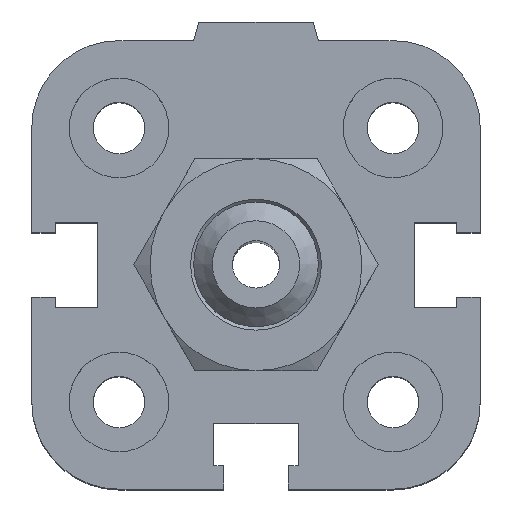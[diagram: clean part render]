
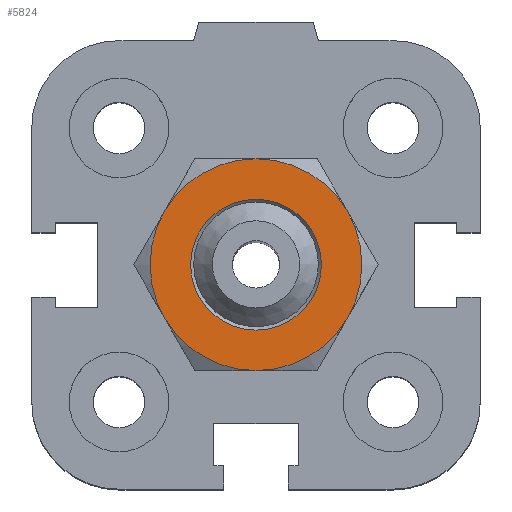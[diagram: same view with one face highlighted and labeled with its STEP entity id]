
A CAD part, top view. The second image highlights one B-rep face of the part: STEP entity #5824.
In plain terms, the highlighted planar face has unit normal (0, 0, 1).
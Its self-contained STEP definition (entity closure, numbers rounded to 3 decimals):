
#5390=CARTESIAN_POINT('',(7.361,4.25,6.));
#5391=VERTEX_POINT('',#5390);
#5405=CARTESIAN_POINT('',(0.,8.5,6.));
#5406=VERTEX_POINT('',#5405);
#5420=CARTESIAN_POINT('',(0.0,0.0,6.));
#5421=DIRECTION('',(0.0,0.0,1.));
#5422=DIRECTION('',(-0.866,-0.5,0.0));
#5423=AXIS2_PLACEMENT_3D('',#5420,#5421,#5422);
#5424=CIRCLE('',#5423,8.5);
#5425=EDGE_CURVE('',#5391,#5406,#5424,.T.);
#5437=CARTESIAN_POINT('',(7.361,-4.25,6.));
#5438=VERTEX_POINT('',#5437);
#5465=CARTESIAN_POINT('',(0.0,0.0,6.));
#5466=DIRECTION('',(0.0,0.0,1.));
#5467=DIRECTION('',(-0.866,-0.5,0.0));
#5468=AXIS2_PLACEMENT_3D('',#5465,#5466,#5467);
#5469=CIRCLE('',#5468,8.5);
#5470=EDGE_CURVE('',#5438,#5391,#5469,.T.);
#5482=CARTESIAN_POINT('',(0.,-8.5,6.));
#5483=VERTEX_POINT('',#5482);
#5510=CARTESIAN_POINT('',(0.0,0.0,6.));
#5511=DIRECTION('',(0.0,0.0,1.));
#5512=DIRECTION('',(-0.866,-0.5,0.0));
#5513=AXIS2_PLACEMENT_3D('',#5510,#5511,#5512);
#5514=CIRCLE('',#5513,8.5);
#5515=EDGE_CURVE('',#5483,#5438,#5514,.T.);
#5540=CARTESIAN_POINT('',(-7.361,-4.25,6.));
#5541=VERTEX_POINT('',#5540);
#5542=CARTESIAN_POINT('',(0.0,0.0,6.));
#5543=DIRECTION('',(0.0,0.0,1.));
#5544=DIRECTION('',(-0.866,-0.5,0.0));
#5545=AXIS2_PLACEMENT_3D('',#5542,#5543,#5544);
#5546=CIRCLE('',#5545,8.5);
#5547=EDGE_CURVE('',#5541,#5483,#5546,.T.);
#5585=CARTESIAN_POINT('',(-7.361,4.25,6.));
#5586=VERTEX_POINT('',#5585);
#5587=CARTESIAN_POINT('',(0.0,0.0,6.));
#5588=DIRECTION('',(0.0,0.0,1.));
#5589=DIRECTION('',(-0.866,-0.5,0.0));
#5590=AXIS2_PLACEMENT_3D('',#5587,#5588,#5589);
#5591=CIRCLE('',#5590,8.5);
#5592=EDGE_CURVE('',#5586,#5541,#5591,.T.);
#5630=CARTESIAN_POINT('',(0.0,0.0,6.));
#5631=DIRECTION('',(0.0,0.0,1.));
#5632=DIRECTION('',(-0.866,-0.5,0.0));
#5633=AXIS2_PLACEMENT_3D('',#5630,#5631,#5632);
#5634=CIRCLE('',#5633,8.5);
#5635=EDGE_CURVE('',#5406,#5586,#5634,.T.);
#5760=CARTESIAN_POINT('',(5.25,0.0,6.));
#5761=VERTEX_POINT('',#5760);
#5762=CARTESIAN_POINT('',(0.0,0.0,6.));
#5763=DIRECTION('',(0.0,0.0,-1.0));
#5764=DIRECTION('',(1.0,0.0,0.0));
#5765=AXIS2_PLACEMENT_3D('',#5762,#5763,#5764);
#5766=CIRCLE('',#5765,5.25);
#5767=EDGE_CURVE('',#5761,#5761,#5766,.T.);
#5808=CARTESIAN_POINT('',(0.,0.0,6.));
#5809=DIRECTION('',(0.0,0.0,1.0));
#5810=DIRECTION('',(1.0,0.0,0.0));
#5811=AXIS2_PLACEMENT_3D('',#5808,#5809,#5810);
#5812=PLANE('',#5811);
#5813=ORIENTED_EDGE('',*,*,#5635,.T.);
#5814=ORIENTED_EDGE('',*,*,#5592,.T.);
#5815=ORIENTED_EDGE('',*,*,#5547,.T.);
#5816=ORIENTED_EDGE('',*,*,#5515,.T.);
#5817=ORIENTED_EDGE('',*,*,#5470,.T.);
#5818=ORIENTED_EDGE('',*,*,#5425,.T.);
#5819=EDGE_LOOP('',(#5813,#5814,#5815,#5816,#5817,#5818));
#5820=FACE_OUTER_BOUND('',#5819,.T.);
#5821=ORIENTED_EDGE('',*,*,#5767,.T.);
#5822=EDGE_LOOP('',(#5821));
#5823=FACE_BOUND('',#5822,.T.);
#5824=ADVANCED_FACE('',(#5820,#5823),#5812,.T.);
